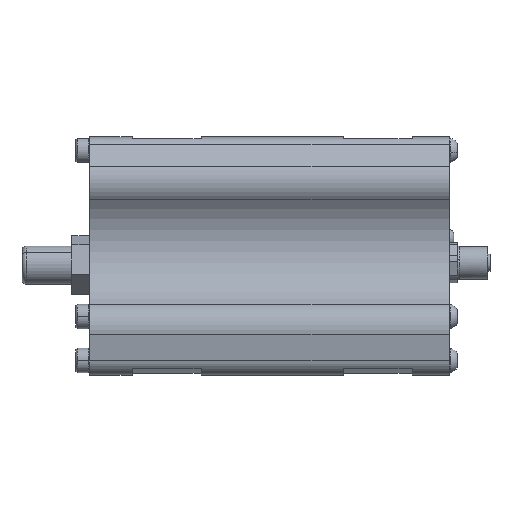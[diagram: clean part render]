
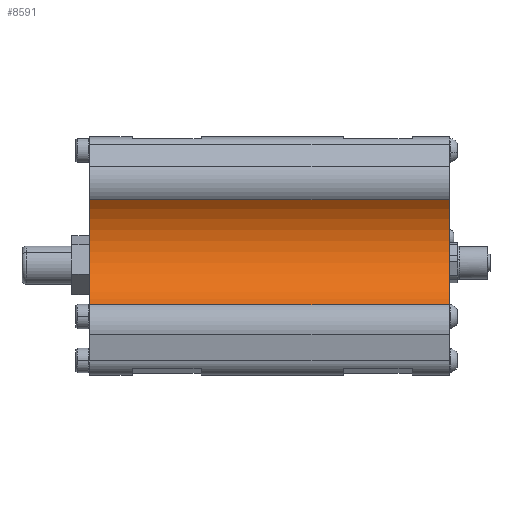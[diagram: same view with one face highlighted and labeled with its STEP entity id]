
A CAD part, top view. The second image highlights one B-rep face of the part: STEP entity #8591.
In plain terms, the highlighted cylindrical face has radius 12.7 mm (diameter 25.4 mm), a partial arc.
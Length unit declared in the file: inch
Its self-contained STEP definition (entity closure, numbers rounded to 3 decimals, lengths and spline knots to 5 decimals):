
#674 = EDGE_CURVE ( 'NONE', #29864, #7165, #10608, .T. ) ;
#983 = DIRECTION ( 'NONE',  ( 0., 0.977, -0.213 ) ) ;
#1005 = ORIENTED_EDGE ( 'NONE', *, *, #10177, .T. ) ;
#1979 = CARTESIAN_POINT ( 'NONE',  ( -2.38, -0.90054, -0.00872 ) ) ;
#2712 = EDGE_LOOP ( 'NONE', ( #1005, #10956, #28763, #4593 ) ) ;
#3303 = AXIS2_PLACEMENT_3D ( 'NONE', #7758, #17222, #16772 ) ;
#3374 = DIRECTION ( 'NONE',  ( -1., 0., 0. ) ) ;
#3904 = AXIS2_PLACEMENT_3D ( 'NONE', #22923, #10914, #26980 ) ;
#4410 = CARTESIAN_POINT ( 'NONE',  ( 0.071, -0.90054, -0.00872 ) ) ;
#4533 = VECTOR ( 'NONE', #3374, 39.37008 ) ;
#4593 = ORIENTED_EDGE ( 'NONE', *, *, #24776, .F. ) ;
#5445 = CARTESIAN_POINT ( 'NONE',  ( 0.229, -0.45238, 0.21297 ) ) ;
#5659 = LINE ( 'NONE', #19543, #4533 ) ;
#6203 = FACE_OUTER_BOUND ( 'NONE', #2712, .T. ) ;
#6515 = CYLINDRICAL_SURFACE ( 'NONE', #3904, 0.5 ) ;
#7165 = VERTEX_POINT ( 'NONE', #16664 ) ;
#7758 = CARTESIAN_POINT ( 'NONE',  ( -2.38, -0.45238, 0.21297 ) ) ;
#8591 = ADVANCED_FACE ( 'NONE', ( #6203 ), #6515, .F. ) ;
#10177 = EDGE_CURVE ( 'NONE', #24479, #7165, #5659, .T. ) ;
#10608 = CIRCLE ( 'NONE', #3303, 0.5 ) ;
#10914 = DIRECTION ( 'NONE',  ( -1., 0., 0. ) ) ;
#10956 = ORIENTED_EDGE ( 'NONE', *, *, #674, .F. ) ;
#11930 = VERTEX_POINT ( 'NONE', #11975 ) ;
#11975 = CARTESIAN_POINT ( 'NONE',  ( 0.229, -0.90054, -0.00872 ) ) ;
#16664 = CARTESIAN_POINT ( 'NONE',  ( -2.38, -0.13693, -0.17496 ) ) ;
#16772 = DIRECTION ( 'NONE',  ( 0., -0.977, 0.213 ) ) ;
#17203 = DIRECTION ( 'NONE',  ( -1., 0., 0. ) ) ;
#17222 = DIRECTION ( 'NONE',  ( 1., 0., 0. ) ) ;
#19543 = CARTESIAN_POINT ( 'NONE',  ( 0.071, -0.13693, -0.17496 ) ) ;
#22097 = CARTESIAN_POINT ( 'NONE',  ( 0.229, -0.13693, -0.17496 ) ) ;
#22168 = VECTOR ( 'NONE', #25550, 39.37008 ) ;
#22923 = CARTESIAN_POINT ( 'NONE',  ( 0.071, -0.45238, 0.21297 ) ) ;
#24479 = VERTEX_POINT ( 'NONE', #22097 ) ;
#24776 = EDGE_CURVE ( 'NONE', #24479, #11930, #27400, .T. ) ;
#25550 = DIRECTION ( 'NONE',  ( 1., 0., 0. ) ) ;
#26980 = DIRECTION ( 'NONE',  ( 0., 0.977, -0.213 ) ) ;
#27400 = CIRCLE ( 'NONE', #27878, 0.5 ) ;
#27878 = AXIS2_PLACEMENT_3D ( 'NONE', #5445, #17203, #983 ) ;
#28244 = EDGE_CURVE ( 'NONE', #29864, #11930, #29968, .T. ) ;
#28763 = ORIENTED_EDGE ( 'NONE', *, *, #28244, .T. ) ;
#29864 = VERTEX_POINT ( 'NONE', #1979 ) ;
#29968 = LINE ( 'NONE', #4410, #22168 ) ;
